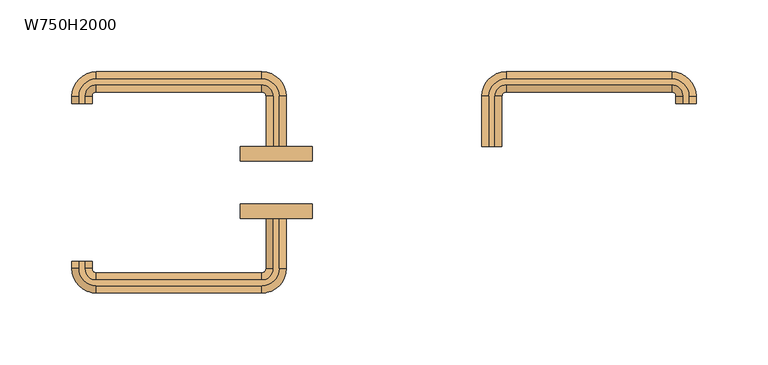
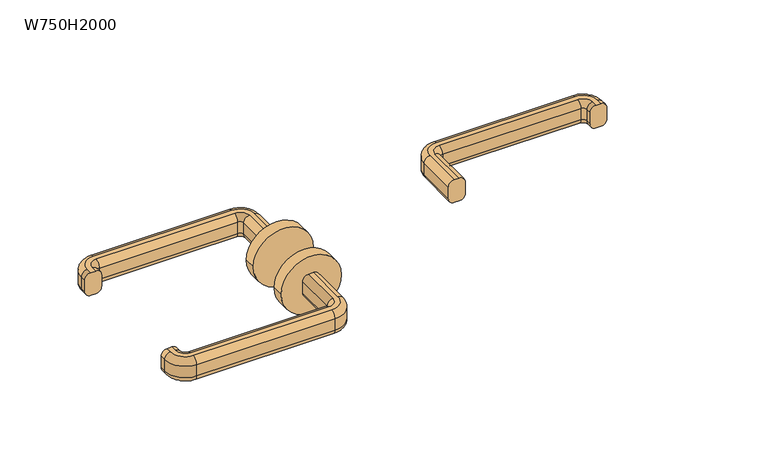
"""IFC4 building model written with IfcOpenShell, lengths in millimetres: door geometry, 両開き : W750H2000."""

from ifc_helpers import new_model, si_unit, point, frame, frame_2d, origin, place, context, project, spatial, polyline, circle_curve, ellipse_curve, trimmed, segment, composite_curve, outline, extrude, source, transform, mapped, element, save
from ifc_brep_helpers import plane_surface, cylinder_surface, revolved_surface, advanced_brep


def w750h2000_741aa240(model_context):
    return source(origin(), model_context, "Body", "SolidModel", [
        advanced_brep(
        [(-73.0, 58.75, 960.0), (-77.0, 58.75, 960.0), (-82.0, 58.75, 955.0), (-82.0, 58.75, 945.0477623), (-77.0, 58.75, 940.0477623), (-73.0, 58.75, 940.0477623), (-68.0, 58.75, 945.0477623), (-68.0, 58.75, 955.0), (-68.0, 93.75, 955.0), (-73.0, 93.75, 960.0), (-68.0, 93.75, 945.0477623), (-73.0, 93.75, 940.0477623), (-77.0, 93.75, 940.0477623), (-85.0, 101.75, 940.0477623), (-200.0, 101.75, 940.0477623), (-208.0, 93.75, 940.0477623), (-208.0, 88.75, 940.0477623), (-212.0, 88.75, 940.0477623), (-212.0, 93.75, 940.0477623), (-200.0, 105.75, 940.0477623), (-85.0, 105.75, 940.0477623), (-82.0, 93.75, 945.0477623), (-82.0, 93.75, 955.0), (-77.0, 93.75, 960.0), (-85.0, 105.75, 960.0), (-200.0, 105.75, 960.0), (-212.0, 93.75, 960.0), (-212.0, 88.75, 960.0), (-208.0, 88.75, 960.0), (-208.0, 93.75, 960.0), (-200.0, 101.75, 960.0), (-85.0, 101.75, 960.0), (-85.0, 110.75, 955.0), (-85.0, 110.75, 945.0477623), (-85.0, 96.75, 945.0477623), (-85.0, 96.75, 955.0), (-200.0, 110.75, 955.0), (-200.0, 110.75, 945.0477623), (-200.0, 96.75, 945.0477623), (-200.0, 96.75, 955.0), (-217.0, 93.75, 955.0), (-217.0, 93.75, 945.0477623), (-203.0, 93.75, 945.0477623), (-203.0, 93.75, 955.0), (-217.0, 88.75, 955.0), (-217.0, 88.75, 945.0477623), (-203.0, 88.75, 945.0477623), (-203.0, 88.75, 955.0)],
        [
            (0, 1),
            (1, 2, circle_curve(frame((-77.0, 58.75, 955.0), z_axis=(0.0, -1.0, 0.0), x_axis=(1.0, 0.0, 0.0)), 5.0)),
            (2, 3),
            (3, 4, circle_curve(frame((-77.0, 58.75, 945.0477623), z_axis=(0.0, -1.0, 0.0), x_axis=(1.0, 0.0, 0.0)), 5.0)),
            (4, 5),
            (5, 6, circle_curve(frame((-73.0, 58.75, 945.0477623), z_axis=(0.0, -1.0, 0.0), x_axis=(1.0, 0.0, 0.0)), 5.0)),
            (6, 7),
            (7, 0, circle_curve(frame((-73.0, 58.75, 955.0), z_axis=(0.0, -1.0, 0.0), x_axis=(1.0, 0.0, 0.0)), 5.0)),
            (7, 8),
            (8, 9, circle_curve(frame((-73.0, 93.75, 955.0), z_axis=(0.0, -1.0, 0.0), x_axis=(1.0, 0.0, 0.0)), 5.0)),
            (9, 0),
            (6, 10),
            (10, 8),
            (5, 11),
            (11, 10, circle_curve(frame((-73.0, 93.75, 945.0477623), z_axis=(0.0, -1.0, 0.0), x_axis=(1.0, 0.0, 0.0)), 5.0)),
            (4, 12),
            (12, 13, circle_curve(frame((-85.0, 93.75, 940.0477623), z_axis=(0.0, 0.0, 1.0), x_axis=(1.0, 0.0, 0.0)), 8.0)),
            (13, 14),
            (14, 15, circle_curve(frame((-200.0, 93.75, 940.0477623), z_axis=(0.0, 0.0, 1.0), x_axis=(0.0, 1.0, 0.0)), 8.0)),
            (15, 16),
            (16, 17),
            (17, 18),
            (18, 19, circle_curve(frame((-200.0, 93.75, 940.0477623), z_axis=(0.0, 0.0, -1.0), x_axis=(0.0, 1.0, 0.0)), 12.0)),
            (19, 20),
            (20, 11, circle_curve(frame((-85.0, 93.75, 940.0477623), z_axis=(0.0, 0.0, -1.0), x_axis=(1.0, 0.0, 0.0)), 12.0)),
            (3, 21),
            (21, 12, circle_curve(frame((-77.0, 93.75, 945.0477623), z_axis=(0.0, -1.0, 0.0), x_axis=(1.0, 0.0, 0.0)), 5.0)),
            (2, 22),
            (22, 21),
            (1, 23),
            (23, 22, circle_curve(frame((-77.0, 93.75, 955.0), z_axis=(0.0, -1.0, 0.0), x_axis=(1.0, 0.0, 0.0)), 5.0)),
            (9, 24, circle_curve(frame((-85.0, 93.75, 960.0), z_axis=(0.0, 0.0, 1.0), x_axis=(1.0, 0.0, 0.0)), 12.0)),
            (24, 25),
            (25, 26, circle_curve(frame((-200.0, 93.75, 960.0), z_axis=(0.0, 0.0, 1.0), x_axis=(0.0, 1.0, 0.0)), 12.0)),
            (26, 27),
            (27, 28),
            (28, 29),
            (29, 30, circle_curve(frame((-200.0, 93.75, 960.0), z_axis=(0.0, 0.0, -1.0), x_axis=(0.0, 1.0, 0.0)), 8.0)),
            (30, 31),
            (31, 23, circle_curve(frame((-85.0, 93.75, 960.0), z_axis=(0.0, 0.0, -1.0), x_axis=(1.0, 0.0, 0.0)), 8.0)),
            (32, 24, circle_curve(frame((-85.0, 105.75, 955.0), z_axis=(1.0, 0.0, 0.0), x_axis=(0.0, 1.0, 0.0)), 5.0)),
            (8, 32, circle_curve(frame((-85.0, 93.75, 955.0), z_axis=(0.0, 0.0, 1.0), x_axis=(1.0, 0.0, 0.0)), 17.0)),
            (33, 32),
            (10, 33, circle_curve(frame((-85.0, 93.75, 945.0477623), z_axis=(0.0, 0.0, 1.0), x_axis=(1.0, 0.0, 0.0)), 17.0)),
            (20, 33, circle_curve(frame((-85.0, 105.75, 945.0477623), z_axis=(1.0, 0.0, 0.0), x_axis=(0.0, 1.0, 0.0)), 5.0)),
            (34, 13, circle_curve(frame((-85.0, 101.75, 945.0477623), z_axis=(1.0, 0.0, 0.0), x_axis=(0.0, 1.0, 0.0)), 5.0)),
            (21, 34, circle_curve(frame((-85.0, 93.75, 945.0477623), z_axis=(0.0, 0.0, 1.0), x_axis=(1.0, 0.0, 0.0)), 3.0)),
            (35, 34),
            (22, 35, circle_curve(frame((-85.0, 93.75, 955.0), z_axis=(0.0, 0.0, 1.0), x_axis=(1.0, 0.0, 0.0)), 3.0)),
            (31, 35, circle_curve(frame((-85.0, 101.75, 955.0), z_axis=(1.0, 0.0, 0.0), x_axis=(0.0, 1.0, 0.0)), 5.0)),
            (32, 36),
            (36, 25, circle_curve(frame((-200.0, 105.75, 955.0), z_axis=(1.0, 0.0, 0.0), x_axis=(0.0, 1.0, 0.0)), 5.0)),
            (33, 37),
            (37, 36),
            (19, 37, circle_curve(frame((-200.0, 105.75, 945.0477623), z_axis=(1.0, 0.0, 0.0), x_axis=(0.0, 1.0, 0.0)), 5.0)),
            (34, 38),
            (38, 14, circle_curve(frame((-200.0, 101.75, 945.0477623), z_axis=(1.0, 0.0, 0.0), x_axis=(0.0, 1.0, 0.0)), 5.0)),
            (35, 39),
            (39, 38),
            (30, 39, circle_curve(frame((-200.0, 101.75, 955.0), z_axis=(1.0, 0.0, 0.0), x_axis=(0.0, 1.0, 0.0)), 5.0)),
            (40, 26, circle_curve(frame((-212.0, 93.75, 955.0), z_axis=(0.0, 1.0, 0.0), x_axis=(-1.0, 0.0, 0.0)), 5.0)),
            (36, 40, circle_curve(frame((-200.0, 93.75, 955.0), z_axis=(0.0, 0.0, 1.0), x_axis=(0.0, 1.0, 0.0)), 17.0)),
            (41, 40),
            (37, 41, circle_curve(frame((-200.0, 93.75, 945.0477623), z_axis=(0.0, 0.0, 1.0), x_axis=(0.0, 1.0, 0.0)), 17.0)),
            (18, 41, circle_curve(frame((-212.0, 93.75, 945.0477623), z_axis=(0.0, 1.0, 0.0), x_axis=(-1.0, 0.0, 0.0)), 5.0)),
            (42, 15, circle_curve(frame((-208.0, 93.75, 945.0477623), z_axis=(0.0, 1.0, 0.0), x_axis=(-1.0, 0.0, 0.0)), 5.0)),
            (38, 42, circle_curve(frame((-200.0, 93.75, 945.0477623), z_axis=(0.0, 0.0, 1.0), x_axis=(0.0, 1.0, 0.0)), 3.0)),
            (43, 42),
            (39, 43, circle_curve(frame((-200.0, 93.75, 955.0), z_axis=(0.0, 0.0, 1.0), x_axis=(0.0, 1.0, 0.0)), 3.0)),
            (29, 43, circle_curve(frame((-208.0, 93.75, 955.0), z_axis=(0.0, 1.0, 0.0), x_axis=(-1.0, 0.0, 0.0)), 5.0)),
            (27, 44, circle_curve(frame((-212.0, 88.75, 955.0), z_axis=(0.0, -1.0, 0.0), x_axis=(-1.0, 0.0, 0.0)), 5.0)),
            (44, 45),
            (45, 17, circle_curve(frame((-212.0, 88.75, 945.0477623), z_axis=(0.0, -1.0, 0.0), x_axis=(-1.0, 0.0, 0.0)), 5.0)),
            (16, 46, circle_curve(frame((-208.0, 88.75, 945.0477623), z_axis=(0.0, -1.0, 0.0), x_axis=(-1.0, 0.0, 0.0)), 5.0)),
            (46, 47),
            (47, 28, circle_curve(frame((-208.0, 88.75, 955.0), z_axis=(0.0, -1.0, 0.0), x_axis=(-1.0, 0.0, 0.0)), 5.0)),
            (40, 44),
            (41, 45),
            (42, 46),
            (43, 47),
        ],
        [
            plane_surface(frame((-64.801961, 58.75, 950.0), z_axis=(0.0, -1.0, 0.0), x_axis=(0.0, 0.0, 1.0))),
            cylinder_surface(frame((-73.0, 58.75, 955.0), z_axis=(0.0, -1.0, 0.0), x_axis=(1.0, 0.0, 0.0)), 5.0),
            plane_surface(frame((-68.0, 58.75, 955.0), z_axis=(1.0, 0.0, 0.0), x_axis=(0.0, 1.0, 0.0))),
            cylinder_surface(frame((-73.0, 58.75, 945.0477623), z_axis=(0.0, -1.0, 0.0), x_axis=(1.0, 0.0, 0.0)), 5.0),
            plane_surface(frame((-73.0, 58.75, 940.0477623), z_axis=(0.0, 0.0, -1.0), x_axis=(0.0, 1.0, 0.0))),
            cylinder_surface(frame((-77.0, 58.75, 945.0477623), z_axis=(0.0, -1.0, 0.0), x_axis=(1.0, 0.0, 0.0)), 5.0),
            plane_surface(frame((-82.0, 58.75, 945.0477623), z_axis=(-1.0, 0.0, 0.0), x_axis=(0.0, 1.0, 0.0))),
            cylinder_surface(frame((-77.0, 58.75, 955.0), z_axis=(0.0, -1.0, 0.0), x_axis=(1.0, 0.0, 0.0)), 5.0),
            plane_surface(frame((-77.0, 58.75, 960.0), z_axis=(0.0, 0.0, 1.0), x_axis=(0.0, 1.0, 0.0))),
            revolved_surface(trimmed(ellipse_curve(frame((-73.0, 93.75, 955.0), z_axis=(0.0, 1.0, 0.0), x_axis=(1.0, 0.0, 0.0)), 5.0, 5.0), [point((-73.0, 93.75, 960.0))], [point((-68.0, 93.75, 955.0))], True, "CARTESIAN"), (-85.0, 93.75, 950.0), (0.0, 0.0, -1.0)),
            cylinder_surface(frame((-85.0, 93.75, 950.0), z_axis=(0.0, 0.0, -1.0), x_axis=(1.0, 0.0, 0.0)), 17.0),
            revolved_surface(trimmed(ellipse_curve(frame((-73.0, 93.75, 945.0477623), z_axis=(0.0, 1.0, 0.0), x_axis=(1.0, 0.0, 0.0)), 5.0, 5.0), [point((-68.0, 93.75, 945.0477623))], [point((-73.0, 93.75, 940.0477623))], True, "CARTESIAN"), (-85.0, 93.75, 950.0), (0.0, 0.0, -1.0)),
            revolved_surface(trimmed(ellipse_curve(frame((-77.0, 93.75, 945.0477623), z_axis=(0.0, 1.0, 0.0), x_axis=(1.0, 0.0, 0.0)), 5.0, 5.0), [point((-77.0, 93.75, 940.0477623))], [point((-82.0, 93.75, 945.0477623))], True, "CARTESIAN"), (-85.0, 93.75, 950.0), (0.0, 0.0, -1.0)),
            revolved_surface(polyline([(-82.0, 93.75, 945.0477623), (-82.0, 93.75, 955.0)]), (-85.0, 93.75, 950.0), (0.0, 0.0, -1.0)),
            revolved_surface(trimmed(ellipse_curve(frame((-77.0, 93.75, 955.0), z_axis=(0.0, 1.0, 0.0), x_axis=(1.0, 0.0, 0.0)), 5.0, 5.0), [point((-82.0, 93.75, 955.0))], [point((-77.0, 93.75, 960.0))], True, "CARTESIAN"), (-85.0, 93.75, 950.0), (0.0, 0.0, -1.0)),
            cylinder_surface(frame((-85.0, 105.75, 955.0), z_axis=(1.0, 0.0, 0.0), x_axis=(0.0, 1.0, 0.0)), 5.0),
            plane_surface(frame((-85.0, 110.75, 955.0), z_axis=(0.0, 1.0, 0.0), x_axis=(-1.0, 0.0, 0.0))),
            cylinder_surface(frame((-85.0, 105.75, 945.0477623), z_axis=(1.0, 0.0, 0.0), x_axis=(0.0, 1.0, 0.0)), 5.0),
            cylinder_surface(frame((-85.0, 101.75, 945.0477623), z_axis=(1.0, 0.0, 0.0), x_axis=(0.0, 1.0, 0.0)), 5.0),
            plane_surface(frame((-85.0, 96.75, 945.0477623), z_axis=(0.0, -1.0, 0.0), x_axis=(-1.0, 0.0, 0.0))),
            cylinder_surface(frame((-85.0, 101.75, 955.0), z_axis=(1.0, 0.0, 0.0), x_axis=(0.0, 1.0, 0.0)), 5.0),
            revolved_surface(trimmed(ellipse_curve(frame((-200.0, 105.75, 955.0), z_axis=(-1.0, 0.0, 0.0), x_axis=(0.0, 1.0, 0.0)), 5.0, 5.0), [point((-200.0, 105.75, 960.0))], [point((-200.0, 110.75, 955.0))], True, "CARTESIAN"), (-200.0, 93.75, 950.0), (0.0, 0.0, -1.0)),
            cylinder_surface(frame((-200.0, 93.75, 950.0), z_axis=(0.0, 0.0, -1.0), x_axis=(0.0, 1.0, 0.0)), 17.0),
            revolved_surface(trimmed(ellipse_curve(frame((-200.0, 105.75, 945.0477623), z_axis=(-1.0, 0.0, 0.0), x_axis=(0.0, 1.0, 0.0)), 5.0, 5.0), [point((-200.0, 110.75, 945.0477623))], [point((-200.0, 105.75, 940.0477623))], True, "CARTESIAN"), (-200.0, 93.75, 950.0), (0.0, 0.0, -1.0)),
            revolved_surface(trimmed(ellipse_curve(frame((-200.0, 101.75, 945.0477623), z_axis=(-1.0, 0.0, 0.0), x_axis=(0.0, 1.0, 0.0)), 5.0, 5.0), [point((-200.0, 101.75, 940.0477623))], [point((-200.0, 96.75, 945.0477623))], True, "CARTESIAN"), (-200.0, 93.75, 950.0), (0.0, 0.0, -1.0)),
            revolved_surface(polyline([(-200.0, 96.75, 945.0477623), (-200.0, 96.75, 955.0)]), (-200.0, 93.75, 950.0), (0.0, 0.0, -1.0)),
            revolved_surface(trimmed(ellipse_curve(frame((-200.0, 101.75, 955.0), z_axis=(-1.0, 0.0, 0.0), x_axis=(0.0, 1.0, 0.0)), 5.0, 5.0), [point((-200.0, 96.75, 955.0))], [point((-200.0, 101.75, 960.0))], True, "CARTESIAN"), (-200.0, 93.75, 950.0), (0.0, 0.0, -1.0)),
            plane_surface(frame((-199.801961, 88.75, 950.0), z_axis=(0.0, -1.0, 0.0), x_axis=(0.0, 0.0, -1.0))),
            cylinder_surface(frame((-212.0, 93.75, 955.0), z_axis=(0.0, 1.0, 0.0), x_axis=(-1.0, 0.0, 0.0)), 5.0),
            plane_surface(frame((-217.0, 93.75, 955.0), z_axis=(-1.0, 0.0, 0.0), x_axis=(0.0, -1.0, 0.0))),
            cylinder_surface(frame((-212.0, 93.75, 945.0477623), z_axis=(0.0, 1.0, 0.0), x_axis=(-1.0, 0.0, 0.0)), 5.0),
            cylinder_surface(frame((-208.0, 93.75, 945.0477623), z_axis=(0.0, 1.0, 0.0), x_axis=(-1.0, 0.0, 0.0)), 5.0),
            plane_surface(frame((-203.0, 93.75, 945.0477623), z_axis=(1.0, 0.0, 0.0), x_axis=(0.0, -1.0, 0.0))),
            cylinder_surface(frame((-208.0, 93.75, 955.0), z_axis=(0.0, 1.0, 0.0), x_axis=(-1.0, 0.0, 0.0)), 5.0),
        ],
        [
            (0, [[1, 2, 3, 4, 5, 6, 7, 8]]),
            (1, [[9, 10, 11, -8]]),
            (2, [[12, 13, -9, -7]]),
            (3, [[14, 15, -12, -6]]),
            (4, [[16, 17, 18, 19, 20, 21, 22, 23, 24, 25, -14, -5]]),
            (5, [[26, 27, -16, -4]]),
            (6, [[28, 29, -26, -3]]),
            (7, [[30, 31, -28, -2]]),
            (8, [[-11, 32, 33, 34, 35, 36, 37, 38, 39, 40, -30, -1]]),
            (9, [[41, -32, -10, 42]]),
            (10, [[43, -42, -13, 44]]),
            (11, [[45, -44, -15, -25]]),
            (12, [[46, -17, -27, 47]]),
            (13, [[48, -47, -29, 49]]),
            (14, [[50, -49, -31, -40]]),
            (15, [[51, 52, -33, -41]]),
            (16, [[53, 54, -51, -43]]),
            (17, [[-24, 55, -53, -45]]),
            (18, [[56, 57, -18, -46]]),
            (19, [[58, 59, -56, -48]]),
            (20, [[-39, 60, -58, -50]]),
            (21, [[61, -34, -52, 62]]),
            (22, [[63, -62, -54, 64]]),
            (23, [[65, -64, -55, -23]]),
            (24, [[66, -19, -57, 67]]),
            (25, [[68, -67, -59, 69]]),
            (26, [[70, -69, -60, -38]]),
            (27, [[71, 72, 73, -21, 74, 75, 76, -36]]),
            (28, [[77, -71, -35, -61]]),
            (29, [[78, -72, -77, -63]]),
            (30, [[-22, -73, -78, -65]]),
            (31, [[79, -74, -20, -66]]),
            (32, [[80, -75, -79, -68]]),
            (33, [[-37, -76, -80, -70]]),
        ],
    ),
        advanced_brep(
        [(-77.0, 8.75, 940.0), (-82.0, 8.75, 945.0), (-82.0, 8.75, 955.0), (-77.0, 8.75, 960.0), (-73.0, 8.75, 960.0), (-68.0, 8.75, 955.0), (-68.0, 8.75, 945.0), (-73.0, 8.75, 940.0), (-73.0, -26.25, 940.0), (-85.0, -38.25, 940.0), (-200.0, -38.25, 940.0), (-212.0, -26.25, 940.0), (-212.0, -21.25, 940.0), (-208.0, -21.25, 940.0), (-208.0, -26.25, 940.0), (-200.0, -34.25, 940.0), (-85.0, -34.25, 940.0), (-77.0, -26.25, 940.0), (-68.0, -26.25, 945.0), (-68.0, -26.25, 955.0), (-73.0, -26.25, 960.0), (-77.0, -26.25, 960.0), (-85.0, -34.25, 960.0), (-200.0, -34.25, 960.0), (-208.0, -26.25, 960.0), (-208.0, -21.25, 960.0), (-212.0, -21.25, 960.0), (-212.0, -26.25, 960.0), (-200.0, -38.25, 960.0), (-85.0, -38.25, 960.0), (-82.0, -26.25, 955.0), (-82.0, -26.25, 945.0), (-85.0, -43.25, 945.0), (-85.0, -43.25, 955.0), (-85.0, -29.25, 955.0), (-85.0, -29.25, 945.0), (-200.0, -43.25, 945.0), (-200.0, -43.25, 955.0), (-200.0, -29.25, 955.0), (-200.0, -29.25, 945.0), (-217.0, -26.25, 945.0), (-217.0, -26.25, 955.0), (-203.0, -26.25, 955.0), (-203.0, -26.25, 945.0), (-217.0, -21.25, 945.0), (-217.0, -21.25, 955.0), (-203.0, -21.25, 955.0), (-203.0, -21.25, 945.0)],
        [
            (0, 1, circle_curve(frame((-77.0, 8.75, 945.0), z_axis=(0.0, 1.0, 0.0), x_axis=(-1.0, 0.0, 0.0)), 5.0)),
            (1, 2),
            (2, 3, circle_curve(frame((-77.0, 8.75, 955.0), z_axis=(0.0, 1.0, 0.0), x_axis=(-1.0, 0.0, 0.0)), 5.0)),
            (3, 4),
            (4, 5, circle_curve(frame((-73.0, 8.75, 955.0), z_axis=(0.0, 1.0, 0.0), x_axis=(-1.0, 0.0, 0.0)), 5.0)),
            (5, 6),
            (6, 7, circle_curve(frame((-73.0, 8.75, 945.0), z_axis=(0.0, 1.0, 0.0), x_axis=(-1.0, 0.0, 0.0)), 5.0)),
            (7, 0),
            (7, 8),
            (8, 9, circle_curve(frame((-85.0, -26.25, 940.0), z_axis=(0.0, 0.0, -1.0), x_axis=(1.0, 0.0, 0.0)), 12.0)),
            (9, 10),
            (10, 11, circle_curve(frame((-200.0, -26.25, 940.0), z_axis=(0.0, 0.0, -1.0), x_axis=(0.0, -1.0, 0.0)), 12.0)),
            (11, 12),
            (12, 13),
            (13, 14),
            (14, 15, circle_curve(frame((-200.0, -26.25, 940.0), z_axis=(0.0, 0.0, 1.0), x_axis=(0.0, -1.0, 0.0)), 8.0)),
            (15, 16),
            (16, 17, circle_curve(frame((-85.0, -26.25, 940.0), z_axis=(0.0, 0.0, 1.0), x_axis=(1.0, 0.0, 0.0)), 8.0)),
            (17, 0),
            (6, 18),
            (18, 8, circle_curve(frame((-73.0, -26.25, 945.0), z_axis=(0.0, 1.0, 0.0), x_axis=(-1.0, 0.0, 0.0)), 5.0)),
            (5, 19),
            (19, 18),
            (4, 20),
            (20, 19, circle_curve(frame((-73.0, -26.25, 955.0), z_axis=(0.0, 1.0, 0.0), x_axis=(-1.0, 0.0, 0.0)), 5.0)),
            (3, 21),
            (21, 22, circle_curve(frame((-85.0, -26.25, 960.0), z_axis=(0.0, 0.0, -1.0), x_axis=(1.0, 0.0, 0.0)), 8.0)),
            (22, 23),
            (23, 24, circle_curve(frame((-200.0, -26.25, 960.0), z_axis=(0.0, 0.0, -1.0), x_axis=(0.0, -1.0, 0.0)), 8.0)),
            (24, 25),
            (25, 26),
            (26, 27),
            (27, 28, circle_curve(frame((-200.0, -26.25, 960.0), z_axis=(0.0, 0.0, 1.0), x_axis=(0.0, -1.0, 0.0)), 12.0)),
            (28, 29),
            (29, 20, circle_curve(frame((-85.0, -26.25, 960.0), z_axis=(0.0, 0.0, 1.0), x_axis=(1.0, 0.0, 0.0)), 12.0)),
            (2, 30),
            (30, 21, circle_curve(frame((-77.0, -26.25, 955.0), z_axis=(0.0, 1.0, 0.0), x_axis=(-1.0, 0.0, 0.0)), 5.0)),
            (1, 31),
            (31, 30),
            (17, 31, circle_curve(frame((-77.0, -26.25, 945.0), z_axis=(0.0, 1.0, 0.0), x_axis=(-1.0, 0.0, 0.0)), 5.0)),
            (32, 9, circle_curve(frame((-85.0, -38.25, 945.0), z_axis=(1.0, 0.0, 0.0), x_axis=(0.0, 1.0, 0.0)), 5.0)),
            (18, 32, circle_curve(frame((-85.0, -26.25, 945.0), z_axis=(0.0, 0.0, -1.0), x_axis=(1.0, 0.0, 0.0)), 17.0)),
            (33, 32),
            (19, 33, circle_curve(frame((-85.0, -26.25, 955.0), z_axis=(0.0, 0.0, -1.0), x_axis=(1.0, 0.0, 0.0)), 17.0)),
            (29, 33, circle_curve(frame((-85.0, -38.25, 955.0), z_axis=(1.0, 0.0, 0.0), x_axis=(0.0, 1.0, 0.0)), 5.0)),
            (34, 22, circle_curve(frame((-85.0, -34.25, 955.0), z_axis=(1.0, 0.0, 0.0), x_axis=(0.0, 1.0, 0.0)), 5.0)),
            (30, 34, circle_curve(frame((-85.0, -26.25, 955.0), z_axis=(0.0, 0.0, -1.0), x_axis=(1.0, 0.0, 0.0)), 3.0)),
            (35, 34),
            (31, 35, circle_curve(frame((-85.0, -26.25, 945.0), z_axis=(0.0, 0.0, -1.0), x_axis=(1.0, 0.0, 0.0)), 3.0)),
            (16, 35, circle_curve(frame((-85.0, -34.25, 945.0), z_axis=(1.0, 0.0, 0.0), x_axis=(0.0, 1.0, 0.0)), 5.0)),
            (32, 36),
            (36, 10, circle_curve(frame((-200.0, -38.25, 945.0), z_axis=(1.0, 0.0, 0.0), x_axis=(0.0, 1.0, 0.0)), 5.0)),
            (33, 37),
            (37, 36),
            (28, 37, circle_curve(frame((-200.0, -38.25, 955.0), z_axis=(1.0, 0.0, 0.0), x_axis=(0.0, 1.0, 0.0)), 5.0)),
            (34, 38),
            (38, 23, circle_curve(frame((-200.0, -34.25, 955.0), z_axis=(1.0, 0.0, 0.0), x_axis=(0.0, 1.0, 0.0)), 5.0)),
            (35, 39),
            (39, 38),
            (15, 39, circle_curve(frame((-200.0, -34.25, 945.0), z_axis=(1.0, 0.0, 0.0), x_axis=(0.0, 1.0, 0.0)), 5.0)),
            (40, 11, circle_curve(frame((-212.0, -26.25, 945.0), z_axis=(0.0, -1.0, 0.0), x_axis=(1.0, 0.0, 0.0)), 5.0)),
            (36, 40, circle_curve(frame((-200.0, -26.25, 945.0), z_axis=(0.0, 0.0, -1.0), x_axis=(0.0, -1.0, 0.0)), 17.0)),
            (41, 40),
            (37, 41, circle_curve(frame((-200.0, -26.25, 955.0), z_axis=(0.0, 0.0, -1.0), x_axis=(0.0, -1.0, 0.0)), 17.0)),
            (27, 41, circle_curve(frame((-212.0, -26.25, 955.0), z_axis=(0.0, -1.0, 0.0), x_axis=(1.0, 0.0, 0.0)), 5.0)),
            (42, 24, circle_curve(frame((-208.0, -26.25, 955.0), z_axis=(0.0, -1.0, 0.0), x_axis=(1.0, 0.0, 0.0)), 5.0)),
            (38, 42, circle_curve(frame((-200.0, -26.25, 955.0), z_axis=(0.0, 0.0, -1.0), x_axis=(0.0, -1.0, 0.0)), 3.0)),
            (43, 42),
            (39, 43, circle_curve(frame((-200.0, -26.25, 945.0), z_axis=(0.0, 0.0, -1.0), x_axis=(0.0, -1.0, 0.0)), 3.0)),
            (14, 43, circle_curve(frame((-208.0, -26.25, 945.0), z_axis=(0.0, -1.0, 0.0), x_axis=(1.0, 0.0, 0.0)), 5.0)),
            (12, 44, circle_curve(frame((-212.0, -21.25, 945.0), z_axis=(0.0, 1.0, 0.0), x_axis=(1.0, 0.0, 0.0)), 5.0)),
            (44, 45),
            (45, 26, circle_curve(frame((-212.0, -21.25, 955.0), z_axis=(0.0, 1.0, 0.0), x_axis=(1.0, 0.0, 0.0)), 5.0)),
            (25, 46, circle_curve(frame((-208.0, -21.25, 955.0), z_axis=(0.0, 1.0, 0.0), x_axis=(1.0, 0.0, 0.0)), 5.0)),
            (46, 47),
            (47, 13, circle_curve(frame((-208.0, -21.25, 945.0), z_axis=(0.0, 1.0, 0.0), x_axis=(1.0, 0.0, 0.0)), 5.0)),
            (40, 44),
            (41, 45),
            (42, 46),
            (43, 47),
        ],
        [
            plane_surface(frame((-64.801961, 8.75, 950.0), z_axis=(0.0, 1.0, 0.0), x_axis=(0.0, 0.0, -1.0))),
            plane_surface(frame((-77.0, 8.75, 940.0), z_axis=(0.0, 0.0, -1.0), x_axis=(0.0, -1.0, 0.0))),
            cylinder_surface(frame((-73.0, 8.75, 945.0), z_axis=(0.0, 1.0, 0.0), x_axis=(-1.0, 0.0, 0.0)), 5.0),
            plane_surface(frame((-68.0, 8.75, 945.0), z_axis=(1.0, 0.0, 0.0), x_axis=(0.0, -1.0, 0.0))),
            cylinder_surface(frame((-73.0, 8.75, 955.0), z_axis=(0.0, 1.0, 0.0), x_axis=(-1.0, 0.0, 0.0)), 5.0),
            plane_surface(frame((-73.0, 8.75, 960.0), z_axis=(0.0, 0.0, 1.0), x_axis=(0.0, -1.0, 0.0))),
            cylinder_surface(frame((-77.0, 8.75, 955.0), z_axis=(0.0, 1.0, 0.0), x_axis=(-1.0, 0.0, 0.0)), 5.0),
            plane_surface(frame((-82.0, 8.75, 955.0), z_axis=(-1.0, 0.0, 0.0), x_axis=(0.0, -1.0, 0.0))),
            cylinder_surface(frame((-77.0, 8.75, 945.0), z_axis=(0.0, 1.0, 0.0), x_axis=(-1.0, 0.0, 0.0)), 5.0),
            revolved_surface(trimmed(ellipse_curve(frame((-73.0, -26.25, 945.0), z_axis=(0.0, -1.0, 0.0), x_axis=(-1.0, 0.0, 0.0)), 5.0, 5.0), [point((-73.0, -26.25, 940.0))], [point((-68.0, -26.25, 945.0))], True, "CARTESIAN"), (-85.0, -26.25, 950.0), (0.0, 0.0, 1.0)),
            cylinder_surface(frame((-85.0, -26.25, 950.0), z_axis=(0.0, 0.0, 1.0), x_axis=(1.0, 0.0, 0.0)), 17.0),
            revolved_surface(trimmed(ellipse_curve(frame((-73.0, -26.25, 955.0), z_axis=(0.0, -1.0, 0.0), x_axis=(-1.0, 0.0, 0.0)), 5.0, 5.0), [point((-68.0, -26.25, 955.0))], [point((-73.0, -26.25, 960.0))], True, "CARTESIAN"), (-85.0, -26.25, 950.0), (0.0, 0.0, 1.0)),
            revolved_surface(trimmed(ellipse_curve(frame((-77.0, -26.25, 955.0), z_axis=(0.0, -1.0, 0.0), x_axis=(-1.0, 0.0, 0.0)), 5.0, 5.0), [point((-77.0, -26.25, 960.0))], [point((-82.0, -26.25, 955.0))], True, "CARTESIAN"), (-85.0, -26.25, 950.0), (0.0, 0.0, 1.0)),
            revolved_surface(polyline([(-82.0, -26.25, 955.0), (-82.0, -26.25, 945.0)]), (-85.0, -26.25, 950.0), (0.0, 0.0, 1.0)),
            revolved_surface(trimmed(ellipse_curve(frame((-77.0, -26.25, 945.0), z_axis=(0.0, -1.0, 0.0), x_axis=(-1.0, 0.0, 0.0)), 5.0, 5.0), [point((-82.0, -26.25, 945.0))], [point((-77.0, -26.25, 940.0))], True, "CARTESIAN"), (-85.0, -26.25, 950.0), (0.0, 0.0, 1.0)),
            cylinder_surface(frame((-85.0, -38.25, 945.0), z_axis=(1.0, 0.0, 0.0), x_axis=(0.0, 1.0, 0.0)), 5.0),
            plane_surface(frame((-85.0, -43.25, 945.0), z_axis=(0.0, -1.0, 0.0), x_axis=(-1.0, 0.0, 0.0))),
            cylinder_surface(frame((-85.0, -38.25, 955.0), z_axis=(1.0, 0.0, 0.0), x_axis=(0.0, 1.0, 0.0)), 5.0),
            cylinder_surface(frame((-85.0, -34.25, 955.0), z_axis=(1.0, 0.0, 0.0), x_axis=(0.0, 1.0, 0.0)), 5.0),
            plane_surface(frame((-85.0, -29.25, 955.0), z_axis=(0.0, 1.0, 0.0), x_axis=(-1.0, 0.0, 0.0))),
            cylinder_surface(frame((-85.0, -34.25, 945.0), z_axis=(1.0, 0.0, 0.0), x_axis=(0.0, 1.0, 0.0)), 5.0),
            revolved_surface(trimmed(ellipse_curve(frame((-200.0, -38.25, 945.0), z_axis=(-1.0, 0.0, 0.0), x_axis=(0.0, 1.0, 0.0)), 5.0, 5.0), [point((-200.0, -38.25, 940.0))], [point((-200.0, -43.25, 945.0))], True, "CARTESIAN"), (-200.0, -26.25, 950.0), (0.0, 0.0, 1.0)),
            cylinder_surface(frame((-200.0, -26.25, 950.0), z_axis=(0.0, 0.0, 1.0), x_axis=(0.0, -1.0, 0.0)), 17.0),
            revolved_surface(trimmed(ellipse_curve(frame((-200.0, -38.25, 955.0), z_axis=(-1.0, 0.0, 0.0), x_axis=(0.0, 1.0, 0.0)), 5.0, 5.0), [point((-200.0, -43.25, 955.0))], [point((-200.0, -38.25, 960.0))], True, "CARTESIAN"), (-200.0, -26.25, 950.0), (0.0, 0.0, 1.0)),
            revolved_surface(trimmed(ellipse_curve(frame((-200.0, -34.25, 955.0), z_axis=(-1.0, 0.0, 0.0), x_axis=(0.0, 1.0, 0.0)), 5.0, 5.0), [point((-200.0, -34.25, 960.0))], [point((-200.0, -29.25, 955.0))], True, "CARTESIAN"), (-200.0, -26.25, 950.0), (0.0, 0.0, 1.0)),
            revolved_surface(polyline([(-200.0, -29.25, 955.0), (-200.0, -29.25, 945.0)]), (-200.0, -26.25, 950.0), (0.0, 0.0, 1.0)),
            revolved_surface(trimmed(ellipse_curve(frame((-200.0, -34.25, 945.0), z_axis=(-1.0, 0.0, 0.0), x_axis=(0.0, 1.0, 0.0)), 5.0, 5.0), [point((-200.0, -29.25, 945.0))], [point((-200.0, -34.25, 940.0))], True, "CARTESIAN"), (-200.0, -26.25, 950.0), (0.0, 0.0, 1.0)),
            plane_surface(frame((-199.801961, -21.25, 950.0), z_axis=(0.0, 1.0, 0.0), x_axis=(0.0, 0.0, 1.0))),
            cylinder_surface(frame((-212.0, -26.25, 945.0), z_axis=(0.0, -1.0, 0.0), x_axis=(1.0, 0.0, 0.0)), 5.0),
            plane_surface(frame((-217.0, -26.25, 945.0), z_axis=(-1.0, 0.0, 0.0), x_axis=(0.0, 1.0, 0.0))),
            cylinder_surface(frame((-212.0, -26.25, 955.0), z_axis=(0.0, -1.0, 0.0), x_axis=(1.0, 0.0, 0.0)), 5.0),
            cylinder_surface(frame((-208.0, -26.25, 955.0), z_axis=(0.0, -1.0, 0.0), x_axis=(1.0, 0.0, 0.0)), 5.0),
            plane_surface(frame((-203.0, -26.25, 955.0), z_axis=(1.0, 0.0, 0.0), x_axis=(0.0, 1.0, 0.0))),
            cylinder_surface(frame((-208.0, -26.25, 945.0), z_axis=(0.0, -1.0, 0.0), x_axis=(1.0, 0.0, 0.0)), 5.0),
        ],
        [
            (0, [[1, 2, 3, 4, 5, 6, 7, 8]]),
            (1, [[9, 10, 11, 12, 13, 14, 15, 16, 17, 18, 19, -8]]),
            (2, [[20, 21, -9, -7]]),
            (3, [[22, 23, -20, -6]]),
            (4, [[24, 25, -22, -5]]),
            (5, [[26, 27, 28, 29, 30, 31, 32, 33, 34, 35, -24, -4]]),
            (6, [[36, 37, -26, -3]]),
            (7, [[38, 39, -36, -2]]),
            (8, [[-19, 40, -38, -1]]),
            (9, [[41, -10, -21, 42]]),
            (10, [[43, -42, -23, 44]]),
            (11, [[45, -44, -25, -35]]),
            (12, [[46, -27, -37, 47]]),
            (13, [[48, -47, -39, 49]]),
            (14, [[50, -49, -40, -18]]),
            (15, [[51, 52, -11, -41]]),
            (16, [[53, 54, -51, -43]]),
            (17, [[-34, 55, -53, -45]]),
            (18, [[56, 57, -28, -46]]),
            (19, [[58, 59, -56, -48]]),
            (20, [[-17, 60, -58, -50]]),
            (21, [[61, -12, -52, 62]]),
            (22, [[63, -62, -54, 64]]),
            (23, [[65, -64, -55, -33]]),
            (24, [[66, -29, -57, 67]]),
            (25, [[68, -67, -59, 69]]),
            (26, [[70, -69, -60, -16]]),
            (27, [[-14, 71, 72, 73, -31, 74, 75, 76]]),
            (28, [[77, -71, -13, -61]]),
            (29, [[78, -72, -77, -63]]),
            (30, [[-32, -73, -78, -65]]),
            (31, [[79, -74, -30, -66]]),
            (32, [[80, -75, -79, -68]]),
            (33, [[-15, -76, -80, -70]]),
        ],
    ),
        extrude(outline(composite_curve([segment(trimmed(circle_curve(frame_2d((950.0, -75.0)), 25.0), [point((950.0, -50.0))], [point((950.0, -100.0))], False, "CARTESIAN"), True, "CONTINUOUS"), segment(trimmed(circle_curve(frame_2d((950.0, -75.0)), 25.0), [point((950.0, -100.0))], [point((950.0, -50.0))], False, "CARTESIAN"), True, "CONTINUOUS")], self_intersect=False)), frame((0.0, 48.75, 0.0), z_axis=(0.0, 1.0, 0.0), x_axis=(0.0, 0.0, 1.0)), (0.0, 0.0, 1.0), 10.0),
        extrude(outline(composite_curve([segment(trimmed(circle_curve(frame_2d((950.0, -75.0)), 25.0), [point((950.0, -50.0))], [point((950.0, -100.0))], False, "CARTESIAN"), True, "CONTINUOUS"), segment(trimmed(circle_curve(frame_2d((950.0, -75.0)), 25.0), [point((950.0, -100.0))], [point((950.0, -50.0))], False, "CARTESIAN"), True, "CONTINUOUS")], self_intersect=False)), frame((0.0, 8.75, 0.0), z_axis=(0.0, 1.0, 0.0), x_axis=(0.0, 0.0, 1.0)), (0.0, 0.0, 1.0), 10.0),
        advanced_brep(
        [(73.0, 58.75, 960.0), (68.0, 58.75, 955.0), (68.0, 58.75, 945.0477623), (73.0, 58.75, 940.0477623), (77.0, 58.75, 940.0477623), (82.0, 58.75, 945.0477623), (82.0, 58.75, 955.0), (77.0, 58.75, 960.0), (73.0, 93.75, 960.0), (68.0, 93.75, 955.0), (68.0, 93.75, 945.0477623), (73.0, 93.75, 940.0477623), (85.0, 105.75, 940.0477623), (200.0, 105.75, 940.0477623), (212.0, 93.75, 940.0477623), (212.0, 88.75, 940.0477623), (208.0, 88.75, 940.0477623), (208.0, 93.75, 940.0477623), (200.0, 101.75, 940.0477623), (85.0, 101.75, 940.0477623), (77.0, 93.75, 940.0477623), (82.0, 93.75, 945.0477623), (82.0, 93.75, 955.0), (77.0, 93.75, 960.0), (85.0, 101.75, 960.0), (200.0, 101.75, 960.0), (208.0, 93.75, 960.0), (208.0, 88.75, 960.0), (212.0, 88.75, 960.0), (212.0, 93.75, 960.0), (200.0, 105.75, 960.0), (85.0, 105.75, 960.0), (85.0, 110.75, 955.0), (85.0, 110.75, 945.0477623), (85.0, 96.75, 945.0477623), (85.0, 96.75, 955.0), (200.0, 110.75, 955.0), (200.0, 110.75, 945.0477623), (200.0, 96.75, 945.0477623), (200.0, 96.75, 955.0), (217.0, 93.75, 955.0), (217.0, 93.75, 945.0477623), (203.0, 93.75, 945.0477623), (203.0, 93.75, 955.0), (203.0, 88.75, 955.0), (203.0, 88.75, 945.0477623), (217.0, 88.75, 945.0477623), (217.0, 88.75, 955.0)],
        [
            (0, 1, circle_curve(frame((73.0, 58.75, 955.0), z_axis=(0.0, -1.0, 0.0), x_axis=(-1.0, 0.0, 0.0)), 5.0)),
            (1, 2),
            (2, 3, circle_curve(frame((73.0, 58.75, 945.0477623), z_axis=(0.0, -1.0, 0.0), x_axis=(-1.0, 0.0, 0.0)), 5.0)),
            (3, 4),
            (4, 5, circle_curve(frame((77.0, 58.75, 945.0477623), z_axis=(0.0, -1.0, 0.0), x_axis=(-1.0, 0.0, 0.0)), 5.0)),
            (5, 6),
            (6, 7, circle_curve(frame((77.0, 58.75, 955.0), z_axis=(0.0, -1.0, 0.0), x_axis=(-1.0, 0.0, 0.0)), 5.0)),
            (7, 0),
            (0, 8),
            (8, 9, circle_curve(frame((73.0, 93.75, 955.0), z_axis=(0.0, -1.0, 0.0), x_axis=(-1.0, 0.0, 0.0)), 5.0)),
            (9, 1),
            (9, 10),
            (10, 2),
            (10, 11, circle_curve(frame((73.0, 93.75, 945.0477623), z_axis=(0.0, -1.0, 0.0), x_axis=(-1.0, 0.0, 0.0)), 5.0)),
            (11, 3),
            (11, 12, circle_curve(frame((85.0, 93.75, 940.0477623), z_axis=(0.0, 0.0, -1.0), x_axis=(-1.0, 0.0, 0.0)), 12.0)),
            (12, 13),
            (13, 14, circle_curve(frame((200.0, 93.75, 940.0477623), z_axis=(0.0, 0.0, -1.0), x_axis=(0.0, 1.0, 0.0)), 12.0)),
            (14, 15),
            (15, 16),
            (16, 17),
            (17, 18, circle_curve(frame((200.0, 93.75, 940.0477623), z_axis=(0.0, 0.0, 1.0), x_axis=(0.0, 1.0, 0.0)), 8.0)),
            (18, 19),
            (19, 20, circle_curve(frame((85.0, 93.75, 940.0477623), z_axis=(0.0, 0.0, 1.0), x_axis=(-1.0, 0.0, 0.0)), 8.0)),
            (20, 4),
            (20, 21, circle_curve(frame((77.0, 93.75, 945.0477623), z_axis=(0.0, -1.0, 0.0), x_axis=(-1.0, 0.0, 0.0)), 5.0)),
            (21, 5),
            (21, 22),
            (22, 6),
            (22, 23, circle_curve(frame((77.0, 93.75, 955.0), z_axis=(0.0, -1.0, 0.0), x_axis=(-1.0, 0.0, 0.0)), 5.0)),
            (23, 7),
            (23, 24, circle_curve(frame((85.0, 93.75, 960.0), z_axis=(0.0, 0.0, -1.0), x_axis=(-1.0, 0.0, 0.0)), 8.0)),
            (24, 25),
            (25, 26, circle_curve(frame((200.0, 93.75, 960.0), z_axis=(0.0, 0.0, -1.0), x_axis=(0.0, 1.0, 0.0)), 8.0)),
            (26, 27),
            (27, 28),
            (28, 29),
            (29, 30, circle_curve(frame((200.0, 93.75, 960.0), z_axis=(0.0, 0.0, 1.0), x_axis=(0.0, 1.0, 0.0)), 12.0)),
            (30, 31),
            (31, 8, circle_curve(frame((85.0, 93.75, 960.0), z_axis=(0.0, 0.0, 1.0), x_axis=(-1.0, 0.0, 0.0)), 12.0)),
            (32, 9, circle_curve(frame((85.0, 93.75, 955.0), z_axis=(0.0, 0.0, 1.0), x_axis=(-1.0, 0.0, 0.0)), 17.0)),
            (31, 32, circle_curve(frame((85.0, 105.75, 955.0), z_axis=(-1.0, 0.0, 0.0), x_axis=(0.0, 1.0, 0.0)), 5.0)),
            (33, 10, circle_curve(frame((85.0, 93.75, 945.0477623), z_axis=(0.0, 0.0, 1.0), x_axis=(-1.0, 0.0, 0.0)), 17.0)),
            (32, 33),
            (33, 12, circle_curve(frame((85.0, 105.75, 945.0477623), z_axis=(-1.0, 0.0, 0.0), x_axis=(0.0, 1.0, 0.0)), 5.0)),
            (34, 21, circle_curve(frame((85.0, 93.75, 945.0477623), z_axis=(0.0, 0.0, 1.0), x_axis=(-1.0, 0.0, 0.0)), 3.0)),
            (19, 34, circle_curve(frame((85.0, 101.75, 945.0477623), z_axis=(-1.0, 0.0, 0.0), x_axis=(0.0, 1.0, 0.0)), 5.0)),
            (35, 22, circle_curve(frame((85.0, 93.75, 955.0), z_axis=(0.0, 0.0, 1.0), x_axis=(-1.0, 0.0, 0.0)), 3.0)),
            (34, 35),
            (35, 24, circle_curve(frame((85.0, 101.75, 955.0), z_axis=(-1.0, 0.0, 0.0), x_axis=(0.0, 1.0, 0.0)), 5.0)),
            (30, 36, circle_curve(frame((200.0, 105.75, 955.0), z_axis=(-1.0, 0.0, 0.0), x_axis=(0.0, 1.0, 0.0)), 5.0)),
            (36, 32),
            (36, 37),
            (37, 33),
            (37, 13, circle_curve(frame((200.0, 105.75, 945.0477623), z_axis=(-1.0, 0.0, 0.0), x_axis=(0.0, 1.0, 0.0)), 5.0)),
            (18, 38, circle_curve(frame((200.0, 101.75, 945.0477623), z_axis=(-1.0, 0.0, 0.0), x_axis=(0.0, 1.0, 0.0)), 5.0)),
            (38, 34),
            (38, 39),
            (39, 35),
            (39, 25, circle_curve(frame((200.0, 101.75, 955.0), z_axis=(-1.0, 0.0, 0.0), x_axis=(0.0, 1.0, 0.0)), 5.0)),
            (40, 36, circle_curve(frame((200.0, 93.75, 955.0), z_axis=(0.0, 0.0, 1.0), x_axis=(0.0, 1.0, 0.0)), 17.0)),
            (29, 40, circle_curve(frame((212.0, 93.75, 955.0), z_axis=(0.0, 1.0, 0.0), x_axis=(1.0, 0.0, 0.0)), 5.0)),
            (41, 37, circle_curve(frame((200.0, 93.75, 945.0477623), z_axis=(0.0, 0.0, 1.0), x_axis=(0.0, 1.0, 0.0)), 17.0)),
            (40, 41),
            (41, 14, circle_curve(frame((212.0, 93.75, 945.0477623), z_axis=(0.0, 1.0, 0.0), x_axis=(1.0, 0.0, 0.0)), 5.0)),
            (42, 38, circle_curve(frame((200.0, 93.75, 945.0477623), z_axis=(0.0, 0.0, 1.0), x_axis=(0.0, 1.0, 0.0)), 3.0)),
            (17, 42, circle_curve(frame((208.0, 93.75, 945.0477623), z_axis=(0.0, 1.0, 0.0), x_axis=(1.0, 0.0, 0.0)), 5.0)),
            (43, 39, circle_curve(frame((200.0, 93.75, 955.0), z_axis=(0.0, 0.0, 1.0), x_axis=(0.0, 1.0, 0.0)), 3.0)),
            (42, 43),
            (43, 26, circle_curve(frame((208.0, 93.75, 955.0), z_axis=(0.0, 1.0, 0.0), x_axis=(1.0, 0.0, 0.0)), 5.0)),
            (27, 44, circle_curve(frame((208.0, 88.75, 955.0), z_axis=(0.0, -1.0, 0.0), x_axis=(1.0, 0.0, 0.0)), 5.0)),
            (44, 45),
            (45, 16, circle_curve(frame((208.0, 88.75, 945.0477623), z_axis=(0.0, -1.0, 0.0), x_axis=(1.0, 0.0, 0.0)), 5.0)),
            (15, 46, circle_curve(frame((212.0, 88.75, 945.0477623), z_axis=(0.0, -1.0, 0.0), x_axis=(1.0, 0.0, 0.0)), 5.0)),
            (46, 47),
            (47, 28, circle_curve(frame((212.0, 88.75, 955.0), z_axis=(0.0, -1.0, 0.0), x_axis=(1.0, 0.0, 0.0)), 5.0)),
            (47, 40),
            (46, 41),
            (45, 42),
            (44, 43),
        ],
        [
            plane_surface(frame((64.801961, 58.75, 950.0), z_axis=(0.0, -1.0, 0.0), x_axis=(0.0, 0.0, 1.0))),
            cylinder_surface(frame((73.0, 58.75, 955.0), z_axis=(0.0, -1.0, 0.0), x_axis=(-1.0, 0.0, 0.0)), 5.0),
            plane_surface(frame((68.0, 58.75, 955.0), z_axis=(-1.0, 0.0, 0.0), x_axis=(0.0, 1.0, 0.0))),
            cylinder_surface(frame((73.0, 58.75, 945.0477623), z_axis=(0.0, -1.0, 0.0), x_axis=(-1.0, 0.0, 0.0)), 5.0),
            plane_surface(frame((73.0, 58.75, 940.0477623), z_axis=(0.0, 0.0, -1.0), x_axis=(0.0, 1.0, 0.0))),
            cylinder_surface(frame((77.0, 58.75, 945.0477623), z_axis=(0.0, -1.0, 0.0), x_axis=(-1.0, 0.0, 0.0)), 5.0),
            plane_surface(frame((82.0, 58.75, 945.0477623), z_axis=(1.0, 0.0, 0.0), x_axis=(0.0, 1.0, 0.0))),
            cylinder_surface(frame((77.0, 58.75, 955.0), z_axis=(0.0, -1.0, 0.0), x_axis=(-1.0, 0.0, 0.0)), 5.0),
            plane_surface(frame((77.0, 58.75, 960.0), z_axis=(0.0, 0.0, 1.0), x_axis=(0.0, 1.0, 0.0))),
            revolved_surface(trimmed(ellipse_curve(frame((73.0, 93.75, 955.0), z_axis=(0.0, -1.0, 0.0), x_axis=(-1.0, 0.0, 0.0)), 5.0, 5.0), [point((73.0, 93.75, 960.0))], [point((68.0, 93.75, 955.0))], True, "CARTESIAN"), (85.0, 93.75, 950.0), (0.0, 0.0, -1.0)),
            cylinder_surface(frame((85.0, 93.75, 950.0), z_axis=(0.0, 0.0, -1.0), x_axis=(-1.0, 0.0, 0.0)), 17.0),
            revolved_surface(trimmed(ellipse_curve(frame((73.0, 93.75, 945.0477623), z_axis=(0.0, -1.0, 0.0), x_axis=(-1.0, 0.0, 0.0)), 5.0, 5.0), [point((68.0, 93.75, 945.0477623))], [point((73.0, 93.75, 940.0477623))], True, "CARTESIAN"), (85.0, 93.75, 950.0), (0.0, 0.0, -1.0)),
            revolved_surface(trimmed(ellipse_curve(frame((77.0, 93.75, 945.0477623), z_axis=(0.0, -1.0, 0.0), x_axis=(-1.0, 0.0, 0.0)), 5.0, 5.0), [point((77.0, 93.75, 940.0477623))], [point((82.0, 93.75, 945.0477623))], True, "CARTESIAN"), (85.0, 93.75, 950.0), (0.0, 0.0, -1.0)),
            revolved_surface(polyline([(82.0, 93.75, 945.0477623), (82.0, 93.75, 955.0)]), (85.0, 93.75, 950.0), (0.0, 0.0, -1.0)),
            revolved_surface(trimmed(ellipse_curve(frame((77.0, 93.75, 955.0), z_axis=(0.0, -1.0, 0.0), x_axis=(-1.0, 0.0, 0.0)), 5.0, 5.0), [point((82.0, 93.75, 955.0))], [point((77.0, 93.75, 960.0))], True, "CARTESIAN"), (85.0, 93.75, 950.0), (0.0, 0.0, -1.0)),
            cylinder_surface(frame((85.0, 105.75, 955.0), z_axis=(-1.0, 0.0, 0.0), x_axis=(0.0, 1.0, 0.0)), 5.0),
            plane_surface(frame((85.0, 110.75, 955.0), z_axis=(0.0, 1.0, 0.0), x_axis=(1.0, 0.0, 0.0))),
            cylinder_surface(frame((85.0, 105.75, 945.0477623), z_axis=(-1.0, 0.0, 0.0), x_axis=(0.0, 1.0, 0.0)), 5.0),
            cylinder_surface(frame((85.0, 101.75, 945.0477623), z_axis=(-1.0, 0.0, 0.0), x_axis=(0.0, 1.0, 0.0)), 5.0),
            plane_surface(frame((85.0, 96.75, 945.0477623), z_axis=(0.0, -1.0, 0.0), x_axis=(1.0, 0.0, 0.0))),
            cylinder_surface(frame((85.0, 101.75, 955.0), z_axis=(-1.0, 0.0, 0.0), x_axis=(0.0, 1.0, 0.0)), 5.0),
            revolved_surface(trimmed(ellipse_curve(frame((200.0, 105.75, 955.0), z_axis=(-1.0, 0.0, 0.0), x_axis=(0.0, 1.0, 0.0)), 5.0, 5.0), [point((200.0, 105.75, 960.0))], [point((200.0, 110.75, 955.0))], True, "CARTESIAN"), (200.0, 93.75, 950.0), (0.0, 0.0, -1.0)),
            cylinder_surface(frame((200.0, 93.75, 950.0), z_axis=(0.0, 0.0, -1.0), x_axis=(0.0, 1.0, 0.0)), 17.0),
            revolved_surface(trimmed(ellipse_curve(frame((200.0, 105.75, 945.0477623), z_axis=(-1.0, 0.0, 0.0), x_axis=(0.0, 1.0, 0.0)), 5.0, 5.0), [point((200.0, 110.75, 945.0477623))], [point((200.0, 105.75, 940.0477623))], True, "CARTESIAN"), (200.0, 93.75, 950.0), (0.0, 0.0, -1.0)),
            revolved_surface(trimmed(ellipse_curve(frame((200.0, 101.75, 945.0477623), z_axis=(-1.0, 0.0, 0.0), x_axis=(0.0, 1.0, 0.0)), 5.0, 5.0), [point((200.0, 101.75, 940.0477623))], [point((200.0, 96.75, 945.0477623))], True, "CARTESIAN"), (200.0, 93.75, 950.0), (0.0, 0.0, -1.0)),
            revolved_surface(polyline([(200.0, 96.75, 945.0477623), (200.0, 96.75, 955.0)]), (200.0, 93.75, 950.0), (0.0, 0.0, -1.0)),
            revolved_surface(trimmed(ellipse_curve(frame((200.0, 101.75, 955.0), z_axis=(-1.0, 0.0, 0.0), x_axis=(0.0, 1.0, 0.0)), 5.0, 5.0), [point((200.0, 96.75, 955.0))], [point((200.0, 101.75, 960.0))], True, "CARTESIAN"), (200.0, 93.75, 950.0), (0.0, 0.0, -1.0)),
            plane_surface(frame((199.801961, 88.75, 950.0), z_axis=(0.0, -1.0, 0.0), x_axis=(0.0, 0.0, -1.0))),
            cylinder_surface(frame((212.0, 93.75, 955.0), z_axis=(0.0, 1.0, 0.0), x_axis=(1.0, 0.0, 0.0)), 5.0),
            plane_surface(frame((217.0, 93.75, 955.0), z_axis=(1.0, 0.0, 0.0), x_axis=(0.0, -1.0, 0.0))),
            cylinder_surface(frame((212.0, 93.75, 945.0477623), z_axis=(0.0, 1.0, 0.0), x_axis=(1.0, 0.0, 0.0)), 5.0),
            cylinder_surface(frame((208.0, 93.75, 945.0477623), z_axis=(0.0, 1.0, 0.0), x_axis=(1.0, 0.0, 0.0)), 5.0),
            plane_surface(frame((203.0, 93.75, 945.0477623), z_axis=(-1.0, 0.0, 0.0), x_axis=(0.0, -1.0, 0.0))),
            cylinder_surface(frame((208.0, 93.75, 955.0), z_axis=(0.0, 1.0, 0.0), x_axis=(1.0, 0.0, 0.0)), 5.0),
        ],
        [
            (0, [[1, 2, 3, 4, 5, 6, 7, 8]]),
            (1, [[-1, 9, 10, 11]]),
            (2, [[-2, -11, 12, 13]]),
            (3, [[-3, -13, 14, 15]]),
            (4, [[-4, -15, 16, 17, 18, 19, 20, 21, 22, 23, 24, 25]]),
            (5, [[-5, -25, 26, 27]]),
            (6, [[-6, -27, 28, 29]]),
            (7, [[-7, -29, 30, 31]]),
            (8, [[-8, -31, 32, 33, 34, 35, 36, 37, 38, 39, 40, -9]]),
            (9, [[41, -10, -40, 42]]),
            (10, [[43, -12, -41, 44]]),
            (11, [[-16, -14, -43, 45]]),
            (12, [[46, -26, -24, 47]]),
            (13, [[48, -28, -46, 49]]),
            (14, [[-32, -30, -48, 50]]),
            (15, [[-42, -39, 51, 52]]),
            (16, [[-44, -52, 53, 54]]),
            (17, [[-45, -54, 55, -17]]),
            (18, [[-47, -23, 56, 57]]),
            (19, [[-49, -57, 58, 59]]),
            (20, [[-50, -59, 60, -33]]),
            (21, [[61, -51, -38, 62]]),
            (22, [[63, -53, -61, 64]]),
            (23, [[-18, -55, -63, 65]]),
            (24, [[66, -56, -22, 67]]),
            (25, [[68, -58, -66, 69]]),
            (26, [[-34, -60, -68, 70]]),
            (27, [[-36, 71, 72, 73, -20, 74, 75, 76]]),
            (28, [[-62, -37, -76, 77]]),
            (29, [[-64, -77, -75, 78]]),
            (30, [[-65, -78, -74, -19]]),
            (31, [[-67, -21, -73, 79]]),
            (32, [[-69, -79, -72, 80]]),
            (33, [[-70, -80, -71, -35]]),
        ],
    ),
    ])


if __name__ == "__main__":
    model = new_model("IFC4")
    model_context = context("Model", 3, world=origin())
    ifc_project = project(units=[si_unit("LENGTHUNIT", "METRE", prefix="MILLI")], contexts=[model_context])
    site = spatial("IfcSite", under=ifc_project)
    building = spatial("IfcBuilding", under=site)
    placement = place(None, origin())
    w750h2000_shape = w750h2000_741aa240(model_context)
    element("IfcDoor", 1, ObjectType="両開き : W750H2000", at=placement, inside=building, context=model_context, shape_type="MappedRepresentation", body=[
        mapped(w750h2000_shape, transform((0.0, 0.0, 0.0), x_axis=(1.0, 0.0, 0.0), y_axis=(0.0, 1.0, 0.0), z_axis=(0.0, 0.0, 1.0))),
    ])
    save(model, "model.ifc")
